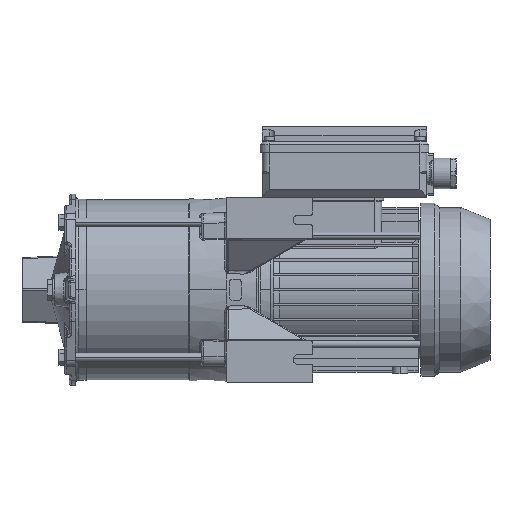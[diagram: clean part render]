
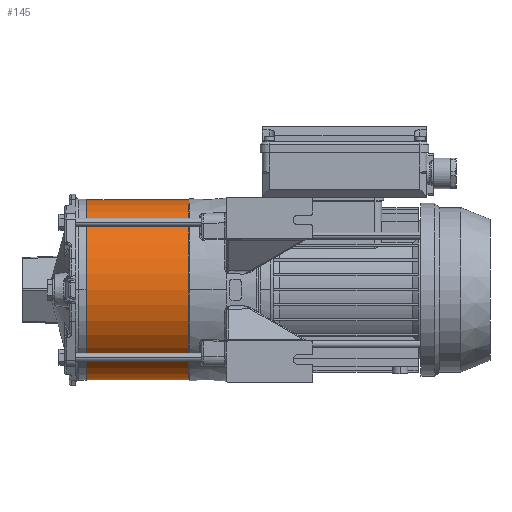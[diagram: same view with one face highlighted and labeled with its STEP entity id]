
A CAD part, front view. The second image highlights one B-rep face of the part: STEP entity #145.
In plain terms, the highlighted cylindrical face has radius 64.5 mm (diameter 129 mm), a partial arc.
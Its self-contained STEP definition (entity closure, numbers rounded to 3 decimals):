
#4=CARTESIAN_POINT('',(0.,0.,0.));
#5=DIRECTION('',(0.,0.,1.));
#6=DIRECTION('',(1.,0.,0.));
#7=AXIS2_PLACEMENT_3D('',#4,#5,#6);
#37=DIRECTION('',(0.,0.,1.));
#38=VECTOR('',#37,73.);
#39=CARTESIAN_POINT('',(64.5,0.,0.));
#40=LINE('',#39,#38);
#44=DIRECTION('',(0.,0.,1.));
#45=VECTOR('',#44,73.);
#46=CARTESIAN_POINT('',(-64.5,0.,0.));
#47=LINE('',#46,#45);
#51=CARTESIAN_POINT('',(0.,0.,73.));
#52=DIRECTION('',(0.,0.,1.));
#53=DIRECTION('',(1.,0.,0.));
#54=AXIS2_PLACEMENT_3D('',#51,#52,#53);
#97=CARTESIAN_POINT('',(64.5,0.,0.));
#98=CARTESIAN_POINT('',(-64.5,0.,0.));
#99=VERTEX_POINT('',#97);
#100=VERTEX_POINT('',#98);
#105=CARTESIAN_POINT('',(64.5,0.,73.));
#106=CARTESIAN_POINT('',(-64.5,0.,73.));
#107=VERTEX_POINT('',#105);
#108=VERTEX_POINT('',#106);
#131=CARTESIAN_POINT('',(0.,0.,0.));
#132=DIRECTION('',(0.,0.,1.));
#133=DIRECTION('',(1.,0.,0.));
#134=AXIS2_PLACEMENT_3D('',#131,#132,#133);
#135=CYLINDRICAL_SURFACE('',#134,64.5);
#136=ORIENTED_EDGE('',*,*,#118,.F.);
#138=ORIENTED_EDGE('',*,*,#137,.T.);
#140=ORIENTED_EDGE('',*,*,#139,.T.);
#142=ORIENTED_EDGE('',*,*,#141,.F.);
#143=EDGE_LOOP('',(#136,#138,#140,#142));
#144=FACE_OUTER_BOUND('',#143,.F.);
#8=CIRCLE('',#7,64.5);
#55=CIRCLE('',#54,64.5);
#118=EDGE_CURVE('',#99,#100,#8,.T.);
#137=EDGE_CURVE('',#99,#107,#40,.T.);
#139=EDGE_CURVE('',#107,#108,#55,.T.);
#141=EDGE_CURVE('',#100,#108,#47,.T.);
#145=ADVANCED_FACE('',(#144),#135,.T.);
